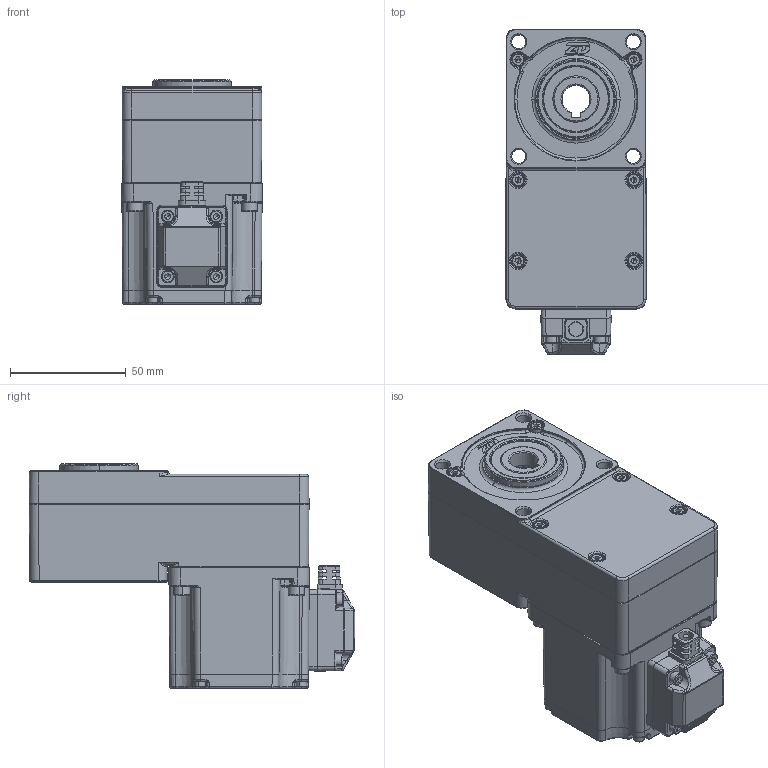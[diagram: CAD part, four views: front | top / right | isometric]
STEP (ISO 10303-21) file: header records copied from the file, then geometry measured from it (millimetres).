
FILE_DESCRIPTION (( 'STEP AP214' ), '1' );
FILE_NAME ('60l2三维外形.STEP', '2023-10-06T01:25:19', ( 'Windows 用户' ), ( 'Organization' ), 'SwSTEP 2.0', 'SolidWorks 2019', '' );
FILE_SCHEMA (( 'AUTOMOTIVE_DESIGN' ));
Length unit declared in the file: millimetre
Products named in the file (29): 2GNL2-505-001#眊裔; ____MANIFOLD_SOLID_BREP_780.stp^____ADMI242897E1RCCY_ASM.stp___________________.stp____________________80K2______(2)_60 80__________.STEP; ____1.stp^__________________.stp____________________80K2______(2)_60 80__________.STEP; hexagon socket head cap screws gb_GB_FASTENER_SCREWS_HSHCS M3X16-N; 80K2______(2)^60 80__________.STEP; ____CHAMFER1-772.stp^____ADMI242897E1RCCY_ASM.stp___________________.stp____________________80K2______(2)_60 80__________.STEP; 60K________-0.STEP; _____X2_52079664_X0_-_X2_62C94F-775.stp^____ADMI242897E1RCCY_ASM.stp___________________.stp____________________80K2______(2)_60 80__________.STEP; hexagon socket head cap screws gb_GB_FASTENER_SCREWS_HSHCS M4X20-N; _____X2_52079664_X0_-_X2_62C94F-778.stp^____ADMI242897E1RCCY_ASM.stp___________________.stp____________________80K2______(2)_60 80__________.STEP; 蚐猾; ____MANIFOLD_SOLID_BREP_781.stp^____ADMI242897E1RCCY_ASM.stp___________________.stp____________________80K2______(2)_60 80__________.STEP; __________________.stp^___________________80K2______(2)_60 80__________.STEP; ____CHAMFER1-770.stp^____ADMI242897E1RCCY_ASM.stp___________________.stp____________________80K2______(2)_60 80__________.STEP; 60 80__________.STEP; ____CHAMFER1-773.stp^____ADMI242897E1RCCY_ASM.stp___________________.stp____________________80K2______(2)_60 80__________.STEP; hexagon socket head cap screws gb_GB_FASTENER_SCREWS_HSHCS M2.5X25-N.STEP; ____CHAMFER1-776.stp^____ADMI242897E1RCCY_ASM.stp___________________.stp____________________80K2______(2)_60 80__________.STEP; 2GNL2-504-001#眊极; 60l2三维外形; _____X2_52079664_X0_-_X2_62C94F-779.stp^____ADMI242897E1RCCY_ASM.stp___________________.stp____________________80K2______(2)_60 80__________.STEP; 怀堤粣; ____ADMI242897E1RCCY_ASM.stp^__________________.stp____________________80K2______(2)_60 80__________.STEP; __________________^80K2______(2)_60 80__________.STEP; ____CHAMFER1-771.stp^____ADMI242897E1RCCY_ASM.stp___________________.stp____________________80K2______(2)_60 80__________.STEP; 60K________.STEP; ____CHAMFER1-774.stp^____ADMI242897E1RCCY_ASM.stp___________________.stp____________________80K2______(2)_60 80__________.STEP; 60K2蚾饜极.STEP; _____X2_52079664_X0_-_X2_62C94F-777.stp^____ADMI242897E1RCCY_ASM.stp___________________.stp____________________80K2______(2)_60 80__________.STEP
Assembly tree (40 placements, depth 8):
  60l2三维外形
    2GNL2-504-001#眊极
    2GNL2-505-001#眊裔
    蚐猾  x2
    怀堤粣
    hexagon socket head cap screws gb_GB_FASTENER_SCREWS_HSHCS M3X16-N  x6
    60K2蚾饜极.STEP
      60 80__________.STEP
        80K2______(2)^60 80__________.STEP
          __________________^80K2______(2)_60 80__________.STEP
            __________________.stp^___________________80K2______(2)_60 80__________.STEP
              ____ADMI242897E1RCCY_ASM.stp^__________________.stp____________________80K2______(2)_60 80__________.STEP
                ____CHAMFER1-770.stp^____ADMI242897E1RCCY_ASM.stp___________________.stp____________________80K2______(2)_60 80__________.STEP
                ____CHAMFER1-771.stp^____ADMI242897E1RCCY_ASM.stp___________________.stp____________________80K2______(2)_60 80__________.STEP
                ____CHAMFER1-772.stp^____ADMI242897E1RCCY_ASM.stp___________________.stp____________________80K2______(2)_60 80__________.STEP
                ____CHAMFER1-773.stp^____ADMI242897E1RCCY_ASM.stp___________________.stp____________________80K2______(2)_60 80__________.STEP
                ____CHAMFER1-774.stp^____ADMI242897E1RCCY_ASM.stp___________________.stp____________________80K2______(2)_60 80__________.STEP
                _____X2_52079664_X0_-_X2_62C94F-775.stp^____ADMI242897E1RCCY_ASM.stp___________________.stp____________________80K2______(2)_60 80__________.STEP
                ____CHAMFER1-776.stp^____ADMI242897E1RCCY_ASM.stp___________________.stp____________________80K2______(2)_60 80__________.STEP
                _____X2_52079664_X0_-_X2_62C94F-777.stp^____ADMI242897E1RCCY_ASM.stp___________________.stp____________________80K2______(2)_60 80__________.STEP
                _____X2_52079664_X0_-_X2_62C94F-778.stp^____ADMI242897E1RCCY_ASM.stp___________________.stp____________________80K2______(2)_60 80__________.STEP
                _____X2_52079664_X0_-_X2_62C94F-779.stp^____ADMI242897E1RCCY_ASM.stp___________________.stp____________________80K2______(2)_60 80__________.STEP
                ____MANIFOLD_SOLID_BREP_780.stp^____ADMI242897E1RCCY_ASM.stp___________________.stp____________________80K2______(2)_60 80__________.STEP
                ____MANIFOLD_SOLID_BREP_781.stp^____ADMI242897E1RCCY_ASM.stp___________________.stp____________________80K2______(2)_60 80__________.STEP
              ____1.stp^__________________.stp____________________80K2______(2)_60 80__________.STEP
      60K________.STEP
      60K________-0.STEP
      hexagon socket head cap screws gb_GB_FASTENER_SCREWS_HSHCS M2.5X25-N.STEP  x4
    hexagon socket head cap screws gb_GB_FASTENER_SCREWS_HSHCS M4X20-N  x4
Bounding box: 60.73 x 140.76 x 96.9 mm (x, y, z)
Volume: 438723.2 mm3; surface area: 120117.5 mm2
Topology: 34 solids, 34 shells, 3584 faces, 9114 edges, 5562 vertices
Faces by surface type: plane 1472, cylinder 814, bspline 406, torus 402, cone 384, sphere 106
Entity records: 115286 total; most frequent: CARTESIAN_POINT 36069, ORIENTED_EDGE 16854, DIRECTION 15853, EDGE_CURVE 8427, AXIS2_PLACEMENT_3D 5825, VERTEX_POINT 5191, LINE 4203, VECTOR 4203
